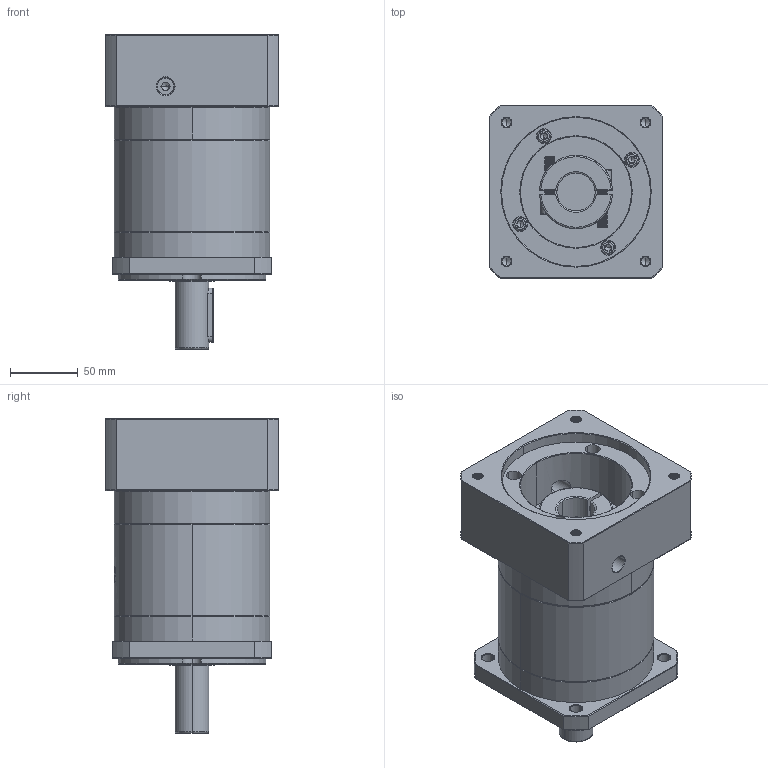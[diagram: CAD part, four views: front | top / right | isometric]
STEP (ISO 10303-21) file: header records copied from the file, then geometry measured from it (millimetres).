
FILE_DESCRIPTION (( 'STEP AP214' ), '1' );
FILE_NAME ('ZF120A-D25-L2-P2-28-110-145-M8.step', '2023-08-27T04:41:20', ( '' ), ( '' ), 'SwSTEP 2.0', 'SolidWorks 2016', '' );
FILE_SCHEMA (( 'AUTOMOTIVE_DESIGN' ));
Length unit declared in the file: millimetre
Products named in the file (1): ZF120A-D25-L2-P2-28-110-145-M8
Bounding box: 128 x 128 x 232 mm (x, y, z)
Volume: 1952487.4 mm3; surface area: 190940.2 mm2
Topology: 6 solids, 6 shells, 2214 faces, 5869 edges, 3759 vertices
Faces by surface type: plane 1033, cylinder 420, bspline 419, cone 322, torus 20
Entity records: 122229 total; most frequent: CARTESIAN_POINT 48369, ORIENTED_EDGE 11678, DIRECTION 8448, EDGE_CURVE 5839, VERTEX_POINT 3759, VECTOR 3088, LINE 3088, AXIS2_PLACEMENT_3D 2680
